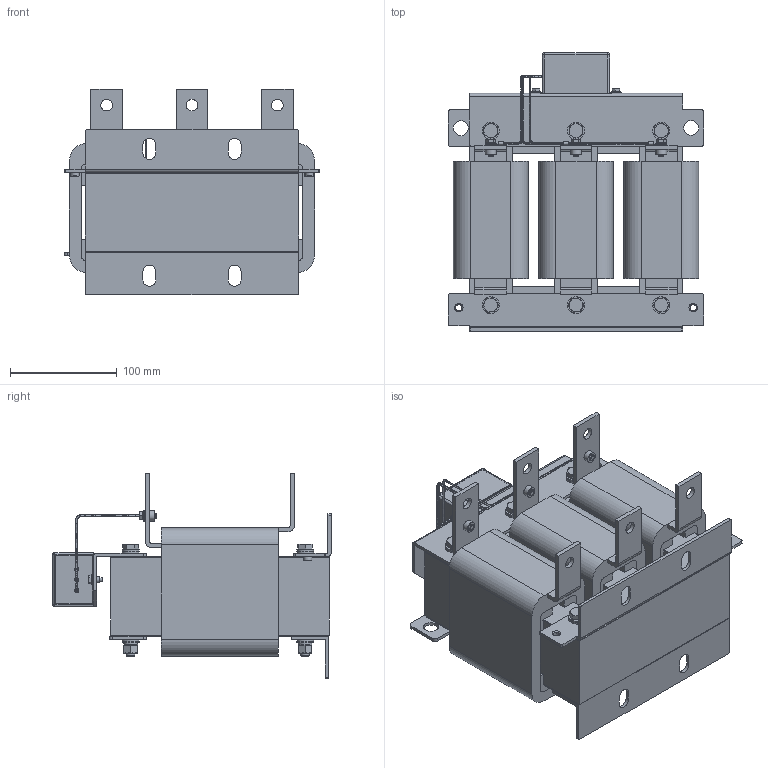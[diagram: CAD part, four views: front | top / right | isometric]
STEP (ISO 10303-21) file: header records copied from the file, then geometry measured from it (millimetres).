
FILE_DESCRIPTION(('STEP AP203'), '1');
FILE_NAME('IDUDT-75_200-4 _ dU_dt ôèëüòð 75 êÂò', '', ('UNSPECIFIED'), ('UNSPECIFIED'), 'C3D Converter', 'C3D Toolkit', '');
FILE_SCHEMA(('CONFIG_CONTROL_DESIGN'));
Length unit declared in the file: millimetre
Products named in the file (27): IDUDT-75/200-4
Assembly tree (94 placements, depth 3):
  IDUDT-75/200-4
    (unnamed)  x6
    (unnamed)  x3
    (unnamed)  x3
    (unnamed)
    (unnamed)
    (unnamed)  x3
    (unnamed)  x24
    (unnamed)  x6
    (unnamed)  x6
    (unnamed)  x6
    (unnamed)
    (unnamed)
    (unnamed)  x2
    (unnamed)  x2
    (unnamed)  x3
    (unnamed)  x3
    (unnamed)
    (unnamed)  x12
    (unnamed)  x3
    (unnamed)
      (unnamed)
    (unnamed)
      (unnamed)
    (unnamed)
      (unnamed)
    (unnamed)
Bounding box: 240 x 261.1 x 193 mm (x, y, z)
Volume: 4105747.1 mm3; surface area: 839083.5 mm2
Topology: 94 solids, 94 shells, 1049 faces, 2339 edges, 1501 vertices
Faces by surface type: plane 613, cylinder 274, cone 148, sphere 8, bspline 6
Full cylindrical faces by diameter (mm): 1.6 x3, 1.7 x3, 3.4 x3, 4 x7, 4.3 x3, 4.5 x2, 5 x8, 5.5 x3, 6 x4, 6.917 x6, 8 x8, 8.68 x6, 9 x32, 10 x6, 11 x18, 11.63 x6, 12.88 x6, 14 x2, 16 x24
Entity records: 22796 total; most frequent: CARTESIAN_POINT 8212, DIRECTION 1919, ORIENTED_EDGE 1610, EDGE_CURVE 805, AXIS2_PLACEMENT_3D 746, VERTEX_POINT 562, EDGE_LOOP 541, FACE_BOUND 427
